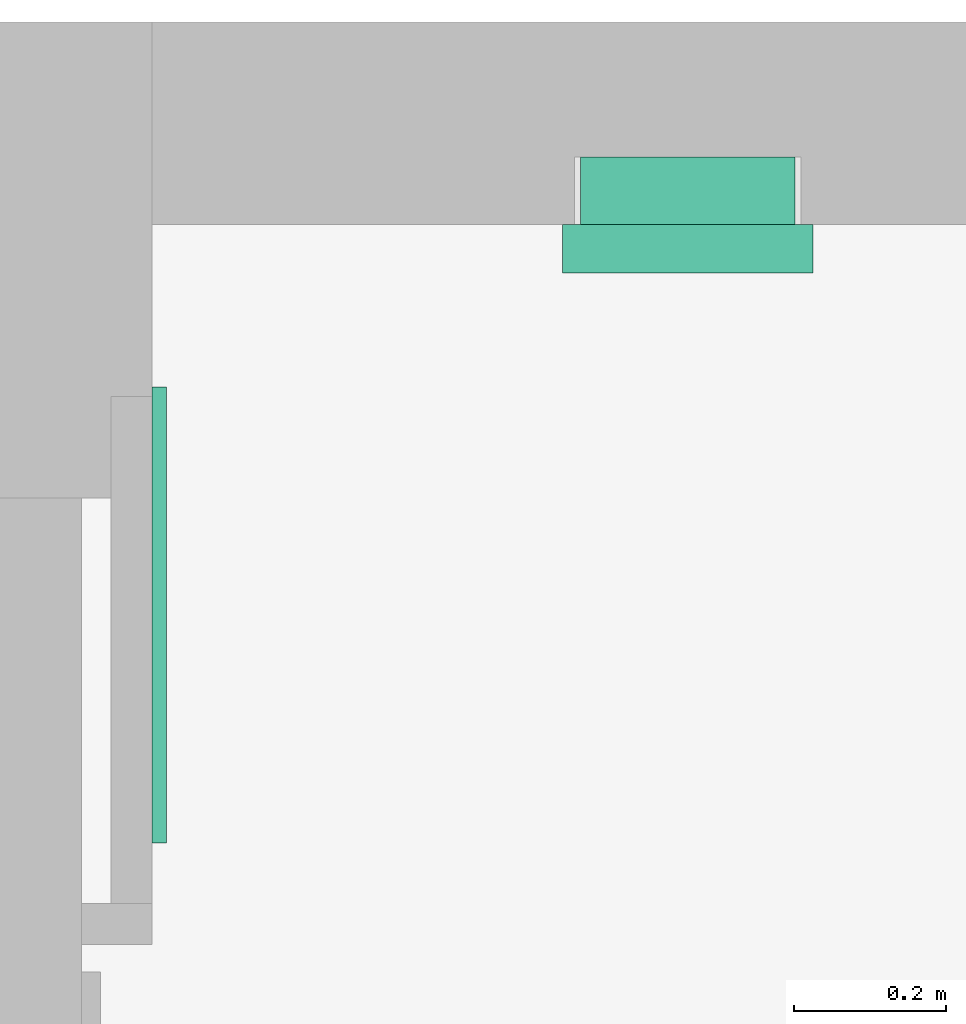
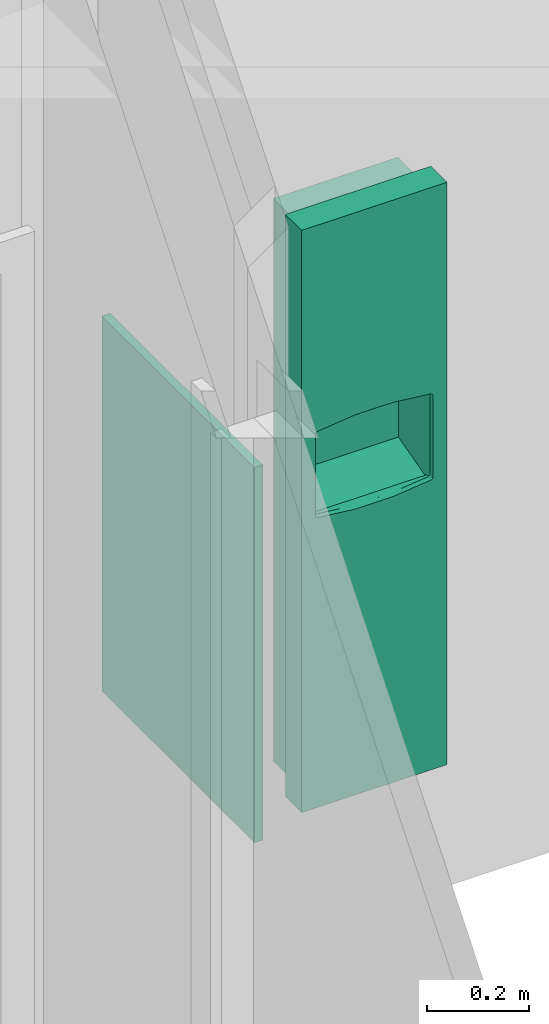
# One storey, part 64 of 82: 2 flow terminals.
"""IFC2X3 building model written with IfcOpenShell, lengths in metres."""

from ifc_helpers import new_model, entity, si_unit, converted_unit, frame, origin, origin_2d_with_axis, place, context, project, spatial, rectangle, extrude, face_set, surface_model, source, transform, mapped, type_object, type_shapes, element, save


model = new_model("IFC2X3")

# Units and contexts
model_context = context("Model", 3, precision=1e-09, world=origin())
plan_context = context("Plan", 3, precision=1e-09, world=origin())
ifc_project = project(units=[si_unit("LENGTHUNIT", "METRE"), si_unit("AREAUNIT", "SQUARE_METRE"), si_unit("VOLUMEUNIT", "CUBIC_METRE"), converted_unit("PLANEANGLEUNIT", "DEGREE", entity("IfcRatioMeasure", 0.01745329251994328), si_unit("PLANEANGLEUNIT", "RADIAN"), dimensions=[0, 0, 0, 0, 0, 0, 0]), si_unit("TIMEUNIT", "SECOND")], contexts=[model_context, plan_context])

# Site, building, storey, space
site_placement = place(None, origin())
site = spatial("IfcSite", under=ifc_project, at=site_placement, Name="Default", CompositionType="ELEMENT")
building_placement = place(site_placement, origin())
building = spatial("IfcBuilding", under=site, at=building_placement, CompositionType="ELEMENT")
storey_placement = place(building_placement, origin())
storey = spatial("IfcBuildingStorey", under=building, at=storey_placement, Name="First Floor", CompositionType="ELEMENT", Elevation=-3.531500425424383e-13)
space_placement = place(storey_placement, origin())
space = spatial("IfcSpace", under=storey, at=space_placement, Name="1A09", CompositionType="ELEMENT", InteriorOrExteriorSpace="INTERNAL")

# Flow terminals
sanitary_terminal_type_1 = type_object("IfcSanitaryTerminalType", Name="Semi-Recessed", PredefinedType="NOTDEFINED")
shared_shape_1 = source(origin(), model_context, "Body", "SurfaceModel", [
    surface_model("IfcFaceBasedSurfaceModel", [(0.3047999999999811, 1.371600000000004, 0.006350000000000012), (0.02539999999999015, 1.371600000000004, 0.006350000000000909), (0.02539999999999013, 0.02540000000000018, 0.006350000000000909), (0.3047999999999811, 0.02540000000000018, 0.006350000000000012), (0.3047999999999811, 1.371600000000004, 0.0), (0.02539999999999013, 1.371600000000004, 0.0), (0.02539999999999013, 0.02540000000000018, 0.0), (0.3047999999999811, 0.02540000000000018, 0.0), (0.3047999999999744, 0.8683625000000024, 0.0314087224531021), (0.304799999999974, 0.8683625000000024, 0.0), (0.304799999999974, 1.371600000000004, 0.0), (0.3047999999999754, 1.371600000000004, 0.1396999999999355), (0.3047999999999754, 0.9274310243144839, 0.139699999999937), (0.3047999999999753, 0.9028355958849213, 0.1191121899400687), (0.304799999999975, 0.8840898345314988, 0.09308548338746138), (0.3047999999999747, 0.8723562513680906, 0.06323391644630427), (0.02539999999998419, 0.8683625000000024, 0.03140872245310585), (0.02539999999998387, 0.8683625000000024, 0.0), (0.02539999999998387, 1.371600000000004, 0.0), (0.02539999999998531, 1.371600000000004, 0.1396999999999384), (0.02539999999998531, 0.9274310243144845, 0.1396999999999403), (0.02539999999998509, 0.9028355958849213, 0.1191121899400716), (0.02539999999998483, 0.8840898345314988, 0.09308548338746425), (0.02539999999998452, 0.8723562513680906, 0.06323391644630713), (0.1650999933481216, 0.8971245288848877, 0.1125374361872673), (0.244423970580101, 0.8850007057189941, 0.0947267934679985), (0.3048000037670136, 0.8934627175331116, 0.1060988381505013), (0.225727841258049, 0.8897196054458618, 0.1024402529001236), (0.1240624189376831, 0.8936511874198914, 0.1080563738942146), (0.1443802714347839, 0.89626145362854, 0.1114614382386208), (0.02539999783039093, 0.8934627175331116, 0.1060988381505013), (0.2975995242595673, 0.8728225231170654, 0.06500939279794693), (0.2961554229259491, 0.8724397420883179, 0.06352298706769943), (0.08576729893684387, 0.8849983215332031, 0.09472260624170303), (0.05923719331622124, 0.8781034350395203, 0.0805450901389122), (0.06810294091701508, 0.8800443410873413, 0.08500713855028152), (0.02539999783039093, 0.8811564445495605, 0.08562259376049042), (0.03954862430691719, 0.8766331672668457, 0.07681932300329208), (0.04958875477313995, 0.8769928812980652, 0.07776296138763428), (0.02539999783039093, 0.8782230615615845, 0.07815969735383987), (0.03264534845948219, 0.875198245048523, 0.07281118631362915), (0.02539999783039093, 0.8767563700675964, 0.0744282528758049), (0.02539999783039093, 0.87602299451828, 0.07256253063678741), (0.2946777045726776, 0.8762261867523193, 0.07572414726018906), (0.3048000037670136, 0.8767563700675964, 0.0744282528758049), (0.3048000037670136, 0.8774896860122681, 0.07629397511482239), (0.2906513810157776, 0.8717893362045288, 0.0609215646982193), (0.3048000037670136, 0.871357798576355, 0.05527761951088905), (0.3048000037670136, 0.8718570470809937, 0.05925576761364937), (0.02539999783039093, 0.874556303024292, 0.06883108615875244), (0.03170676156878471, 0.8735430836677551, 0.0675705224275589), (0.03171554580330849, 0.8739543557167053, 0.06892137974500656), (0.104461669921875, 0.889717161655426, 0.1024366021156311), (0.02539999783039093, 0.8752896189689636, 0.07069680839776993), (0.03172433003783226, 0.8743656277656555, 0.07027223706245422), (0.03218483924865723, 0.8747819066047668, 0.07154171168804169), (0.185808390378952, 0.8962624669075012, 0.1114626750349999), (0.3048000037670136, 0.8703593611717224, 0.04732131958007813), (0.2280749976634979, 0.8709259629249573, 0.05697767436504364), (0.2061262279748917, 0.8936530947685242, 0.1080589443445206), (0.3048000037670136, 0.8752896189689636, 0.07069680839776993), (0.297547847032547, 0.8752022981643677, 0.07282306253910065), (0.2980738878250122, 0.8745774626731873, 0.0708826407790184), (0.2985999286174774, 0.8739525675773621, 0.06894221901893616), (0.3048000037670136, 0.874556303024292, 0.06883108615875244), (0.2709419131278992, 0.8781068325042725, 0.08055329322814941), (0.3048000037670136, 0.8811564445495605, 0.08562259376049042), (0.2620970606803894, 0.8800443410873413, 0.08500713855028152), (0.2805894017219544, 0.8769944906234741, 0.07776710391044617), (0.3048000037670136, 0.8782230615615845, 0.07815969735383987), (0.03435983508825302, 0.8722586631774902, 0.06284872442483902), (0.02539999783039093, 0.872106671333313, 0.06124484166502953), (0.0367727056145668, 0.8719081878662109, 0.06142202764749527), (0.2906513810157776, 0.8766331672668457, 0.07681932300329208), (0.02539999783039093, 0.8718570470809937, 0.05925576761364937), (0.3048000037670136, 0.8738229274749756, 0.06696536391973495), (0.2980997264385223, 0.8733875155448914, 0.06697580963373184), (0.3048000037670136, 0.872106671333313, 0.06124484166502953), (0.2947112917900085, 0.8720570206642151, 0.06203658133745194), (0.02539999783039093, 0.8738229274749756, 0.06696536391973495), (0.3048000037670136, 0.873089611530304, 0.06509964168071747), (0.02539999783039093, 0.8774896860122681, 0.07629397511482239), (0.03438528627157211, 0.8759323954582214, 0.07491400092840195), (0.03677724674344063, 0.8764464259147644, 0.07632055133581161), (0.03261014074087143, 0.8728178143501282, 0.0649920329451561), (0.02539999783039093, 0.8703593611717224, 0.04732131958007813), (0.1650999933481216, 0.8683624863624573, 0.03140872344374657), (0.03954862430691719, 0.8717893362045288, 0.0609215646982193), (0.1021250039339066, 0.8709259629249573, 0.05697767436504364), (0.02539999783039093, 0.871357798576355, 0.05527761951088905), (0.02539999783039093, 0.873089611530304, 0.06509964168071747), (0.2961127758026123, 0.8757142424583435, 0.07427360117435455), (0.3048000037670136, 0.87602299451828, 0.07256253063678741), (0.1650999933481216, 0.8701865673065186, 0.05300865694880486), (0.03954862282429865, 0.9617593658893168, 0.06092156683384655), (0.1650999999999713, 0.9617593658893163, 0.05300865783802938), (0.2906513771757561, 0.9617593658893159, 0.06092156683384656), (0.2927086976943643, 0.9617593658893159, 0.06119241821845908), (0.2946258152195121, 0.9617593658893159, 0.06198651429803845), (0.2962720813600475, 0.9617593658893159, 0.06324973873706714), (0.2975353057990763, 0.9617593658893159, 0.06489600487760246), (0.2983294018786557, 0.9617593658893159, 0.06681312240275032), (0.2986002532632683, 0.9617593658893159, 0.06887044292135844), (0.2983294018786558, 0.9617593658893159, 0.07092776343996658), (0.2975353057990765, 0.9617593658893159, 0.0728448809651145), (0.2962720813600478, 0.9617593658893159, 0.07449114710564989), (0.2946258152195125, 0.9617593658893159, 0.07575437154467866), (0.2927086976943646, 0.9617593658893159, 0.07654846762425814), (0.2906513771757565, 0.9617593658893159, 0.07681931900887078), (0.2806776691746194, 0.9617593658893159, 0.07775040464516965), (0.2710486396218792, 0.9617593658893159, 0.0805114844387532), (0.2620970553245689, 0.9617593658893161, 0.0850071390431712), (0.2316919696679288, 0.9617593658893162, 0.1002429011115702), (0.1989754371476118, 0.9617593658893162, 0.1095287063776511), (0.1651000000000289, 0.9617593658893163, 0.1125374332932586), (0.1312245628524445, 0.9617593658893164, 0.109528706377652), (0.09850803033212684, 0.9617593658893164, 0.1002429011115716), (0.06810294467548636, 0.9617593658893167, 0.08500713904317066), (0.05915136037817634, 0.9617593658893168, 0.08051148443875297), (0.04952233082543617, 0.9617593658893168, 0.07775040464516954), (0.03954862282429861, 0.9617593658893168, 0.07681931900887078), (0.03749130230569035, 0.9617593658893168, 0.0765484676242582), (0.03557418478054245, 0.9617593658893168, 0.07575437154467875), (0.03392791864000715, 0.9617593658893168, 0.07449114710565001), (0.03266469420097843, 0.9617593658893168, 0.07284488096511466), (0.03187059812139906, 0.9617593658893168, 0.07092776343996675), (0.03159974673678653, 0.9617593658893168, 0.06887044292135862), (0.03187059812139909, 0.9617593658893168, 0.06681312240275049), (0.03266469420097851, 0.9617593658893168, 0.0648960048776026), (0.03392791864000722, 0.9617593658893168, 0.06324973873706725), (0.03557418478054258, 0.9617593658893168, 0.06198651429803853), (0.03749130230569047, 0.9617593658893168, 0.06119241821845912), (0.3302000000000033, 1.397000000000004, 0.1523999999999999), (0.0, 1.397000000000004, 0.152400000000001), (0.0, 0.0, 0.152400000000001), (0.3302000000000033, 0.0, 0.1523999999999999), (0.03175000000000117, 0.7016793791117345, 0.1524000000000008), (0.03175000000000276, 0.8960819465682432, 0.1524000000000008), (0.03192255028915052, 0.8975521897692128, 0.1524000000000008), (0.03243082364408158, 0.8989425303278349, 0.1524000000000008), (0.03324719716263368, 0.9001774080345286, 0.1524000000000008), (0.03432730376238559, 0.9011897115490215, 0.1524000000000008), (0.03561244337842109, 0.9019244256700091, 0.1524000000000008), (0.03703277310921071, 0.9023416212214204, 0.1524000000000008), (0.1222300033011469, 0.9119737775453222, 0.1524000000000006), (0.2079699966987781, 0.911973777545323, 0.1524000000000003), (0.2931672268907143, 0.902341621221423, 0.1524), (0.2945875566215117, 0.9019244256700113, 0.1524), (0.2958726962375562, 0.9011897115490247, 0.1524), (0.2969528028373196, 0.9001774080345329, 0.1524), (0.297769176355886, 0.8989425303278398, 0.1524), (0.2982774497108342, 0.8975521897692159, 0.1524), (0.2984500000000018, 0.8960819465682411, 0.1524), (0.2984500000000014, 0.7016793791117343, 0.1524), (0.2982774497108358, 0.7002091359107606, 0.1524), (0.2977691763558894, 0.6988187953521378, 0.1524), (0.2969528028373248, 0.697583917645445, 0.1524), (0.2958726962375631, 0.6965716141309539, 0.1524), (0.29458755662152, 0.6958369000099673, 0.1524), (0.2931672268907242, 0.6954197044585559, 0.1524), (0.2079699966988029, 0.6857875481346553, 0.1524000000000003), (0.1222300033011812, 0.6857875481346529, 0.1524000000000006), (0.03703277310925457, 0.6954197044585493, 0.1524000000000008), (0.03561244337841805, 0.6958369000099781, 0.1524000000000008), (0.0343273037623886, 0.6965716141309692, 0.1524000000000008), (0.03324719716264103, 0.6975839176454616, 0.1524000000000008), (0.03243082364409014, 0.698818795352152, 0.1524000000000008), (0.03192255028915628, 0.7002091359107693, 0.1524000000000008), (0.3063874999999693, 1.373187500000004, 0.0), (0.02381249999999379, 1.373187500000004, 0.0), (0.02381249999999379, 0.02381250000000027, 0.0), (0.3063874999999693, 0.02381250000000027, 0.0), (0.3047999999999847, 1.371600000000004, 0.0), (0.3047999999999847, 0.02540000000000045, 0.0), (0.02539999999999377, 0.02540000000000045, 0.0), (0.02539999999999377, 1.371600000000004, 0.0), (0.304799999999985, 1.371600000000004, 0.08889999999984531), (0.3047999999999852, 1.371600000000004, 0.1396999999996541), (0.3047999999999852, 0.02540000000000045, 0.1396999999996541), (0.304799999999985, 0.02540000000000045, 0.08889999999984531), (0.02539999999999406, 0.02540000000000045, 0.08889999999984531), (0.02539999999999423, 0.02540000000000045, 0.139699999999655), (0.02539999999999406, 1.371600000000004, 0.08889999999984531), (0.02539999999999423, 1.371600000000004, 0.139699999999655), (0.02381249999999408, 1.373187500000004, 0.08889999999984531), (0.3063874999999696, 1.373187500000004, 0.08889999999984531), (0.02381249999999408, 0.02381250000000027, 0.08889999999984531), (0.3063874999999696, 0.02381250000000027, 0.08889999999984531), (0.3302000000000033, 1.397000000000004, 0.08889999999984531), (0.0, 1.397000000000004, 0.08889999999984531), (0.0, 0.0, 0.08889999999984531), (0.3302000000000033, 0.0, 0.08889999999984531), (0.3302000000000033, 1.397000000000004, 0.1396999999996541), (0.0, 1.397000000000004, 0.1396999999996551), (0.0, 0.0, 0.1396999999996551), (0.3302000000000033, 0.0, 0.1396999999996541), (0.0317500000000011, 0.7016793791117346, 0.139699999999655), (0.03175000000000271, 0.8960819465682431, 0.139699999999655), (0.03192255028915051, 0.8975521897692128, 0.139699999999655), (0.03243082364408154, 0.8989425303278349, 0.139699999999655), (0.03324719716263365, 0.9001774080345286, 0.139699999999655), (0.03432730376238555, 0.9011897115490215, 0.139699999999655), (0.03561244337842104, 0.9019244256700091, 0.139699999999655), (0.03703277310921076, 0.9023416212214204, 0.139699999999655), (0.1222300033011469, 0.9119737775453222, 0.1396999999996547), (0.207969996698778, 0.911973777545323, 0.1396999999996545), (0.2931672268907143, 0.902341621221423, 0.1396999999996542), (0.2945875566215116, 0.9019244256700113, 0.1396999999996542), (0.2958726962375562, 0.9011897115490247, 0.1396999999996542), (0.2969528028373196, 0.9001774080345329, 0.1396999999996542), (0.2977691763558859, 0.8989425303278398, 0.1396999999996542), (0.2982774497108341, 0.8975521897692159, 0.1396999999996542), (0.2984500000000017, 0.8960819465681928, 0.1396999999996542), (0.2984500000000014, 0.7016793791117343, 0.1396999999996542), (0.2982774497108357, 0.7002091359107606, 0.1396999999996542), (0.2977691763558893, 0.6988187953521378, 0.1396999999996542), (0.2969528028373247, 0.697583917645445, 0.1396999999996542), (0.295872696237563, 0.6965716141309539, 0.1396999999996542), (0.29458755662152, 0.6958369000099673, 0.1396999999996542), (0.2931672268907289, 0.6954197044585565, 0.1396999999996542), (0.2079699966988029, 0.6857875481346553, 0.1396999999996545), (0.1222300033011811, 0.6857875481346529, 0.1396999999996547), (0.0370327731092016, 0.6954197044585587, 0.139699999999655), (0.03561244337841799, 0.6958369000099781, 0.139699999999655), (0.03432730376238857, 0.6965716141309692, 0.139699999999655), (0.03324719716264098, 0.6975839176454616, 0.139699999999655), (0.03243082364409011, 0.698818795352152, 0.139699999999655), (0.03192255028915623, 0.7002091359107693, 0.139699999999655), (0.02698749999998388, 0.6774923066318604, 0.1206361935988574), (0.02698749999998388, 0.6858000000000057, 0.1206361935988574), (0.02698749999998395, 0.6858000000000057, 0.1397000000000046), (0.02698749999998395, 0.0253999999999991, 0.1397000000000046), (0.02698749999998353, 0.0253999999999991, 0.007937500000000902), (0.02698749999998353, 0.7076898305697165, 0.007937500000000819), (0.3032124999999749, 0.6774923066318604, 0.1206361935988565), (0.3032124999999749, 0.6858000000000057, 0.1206361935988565), (0.3032124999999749, 0.6858000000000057, 0.1397000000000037), (0.3032124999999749, 0.0253999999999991, 0.1397000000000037), (0.3032124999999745, 0.0253999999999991, 0.007937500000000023), (0.3032124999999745, 0.7076898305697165, 0.007937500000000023)], [face_set([[[0, 1, 2, 3]], [[4, 5, 6, 7]], [[1, 0, 4, 5]], [[2, 6, 5, 1]], [[3, 7, 6, 2]], [[0, 3, 7, 4]]]), face_set([[[8, 9, 10, 11, 12, 13, 14, 15]], [[16, 17, 18, 19, 20, 21, 22, 23]], [[9, 8, 16, 17]], [[10, 18, 17, 9]], [[11, 19, 18, 10]], [[12, 11, 19, 20]], [[24, 20, 21]], [[25, 26, 27]], [[28, 29, 21]], [[28, 21, 30]], [[15, 31, 32]], [[22, 33, 30]], [[24, 21, 29]], [[34, 35, 36]], [[37, 38, 39]], [[40, 41, 42]], [[39, 38, 34]], [[22, 35, 33]], [[39, 34, 36]], [[43, 44, 45]], [[46, 47, 48]], [[49, 50, 51]], [[33, 52, 30]], [[53, 54, 55]], [[24, 56, 13]], [[57, 47, 58]], [[24, 13, 12]], [[13, 56, 59]], [[59, 27, 26]], [[60, 61, 62]], [[62, 63, 64]], [[24, 12, 20]], [[55, 42, 53]], [[65, 66, 67]], [[25, 67, 14]], [[25, 14, 26]], [[65, 68, 69]], [[66, 65, 69]], [[70, 71, 72]], [[69, 68, 73]], [[72, 71, 74]], [[26, 13, 59]], [[54, 53, 49]], [[64, 60, 62]], [[75, 63, 76]], [[46, 77, 78]], [[79, 50, 49]], [[80, 76, 31]], [[39, 81, 37]], [[41, 82, 81]], [[49, 51, 54]], [[81, 82, 83]], [[40, 82, 41]], [[70, 84, 23]], [[84, 50, 79]], [[85, 16, 86]], [[28, 30, 52]], [[70, 23, 71]], [[87, 72, 74]], [[85, 88, 89]], [[87, 89, 88]], [[74, 89, 87]], [[84, 90, 23]], [[58, 47, 46]], [[35, 22, 36]], [[63, 75, 64]], [[91, 61, 92]], [[45, 73, 43]], [[80, 75, 76]], [[61, 60, 92]], [[15, 32, 78]], [[45, 69, 73]], [[92, 44, 91]], [[66, 14, 67]], [[84, 79, 90]], [[85, 93, 88]], [[86, 57, 93]], [[31, 15, 80]], [[77, 15, 78]], [[42, 55, 40]], [[58, 93, 57]], [[77, 46, 48]], [[8, 57, 86]], [[37, 81, 83]], [[44, 43, 91]], [[85, 86, 93]], [[94, 95, 96, 97, 98, 99, 100, 101, 102, 103, 104, 105, 106, 107, 108, 109, 110, 111, 112, 113, 114, 115, 116, 117, 118, 119, 120, 121, 122, 123, 124, 125, 126, 127, 128, 129, 130, 131]], [[95, 94, 87, 88, 93]], [[96, 95, 93, 58, 46]], [[46, 96, 97]], [[78, 98, 99]], [[97, 98, 78]], [[99, 100, 31]], [[46, 97, 78]], [[63, 31, 101]], [[31, 78, 99]], [[63, 101, 102]], [[101, 31, 100]], [[61, 104, 105]], [[43, 106, 107]], [[105, 106, 43]], [[73, 107, 108]], [[63, 103, 61]], [[103, 63, 102]], [[61, 103, 104]], [[61, 105, 43]], [[107, 73, 43]], [[108, 68, 73]], [[68, 108, 109]], [[109, 65, 68]], [[110, 67, 65]], [[67, 110, 111]], [[109, 110, 65]], [[111, 112, 25]], [[25, 67, 111]], [[27, 25, 112]], [[112, 59, 27]], [[113, 114, 56]], [[56, 59, 113]], [[24, 56, 114]], [[113, 59, 112]], [[114, 115, 29]], [[29, 24, 114]], [[28, 29, 115]], [[115, 116, 28]], [[116, 117, 33]], [[33, 52, 116]], [[35, 33, 117]], [[116, 52, 28]], [[118, 34, 35]], [[35, 117, 118]], [[118, 119, 34]], [[120, 37, 38]], [[38, 119, 120]], [[34, 119, 38]], [[37, 120, 121]], [[82, 122, 123]], [[121, 122, 83]], [[123, 124, 40]], [[37, 121, 83]], [[83, 122, 82]], [[40, 125, 54]], [[40, 82, 123]], [[54, 125, 126]], [[40, 124, 125]], [[84, 127, 128]], [[129, 84, 128]], [[72, 130, 131]], [[129, 130, 70]], [[87, 131, 94]], [[127, 50, 126]], [[127, 84, 50]], [[126, 50, 54]], [[70, 84, 129]], [[130, 72, 70]], [[131, 87, 72]]]), face_set([[[132, 133, 134, 135], [136, 137, 138, 139, 140, 141, 142, 143, 144, 145, 146, 147, 148, 149, 150, 151, 152, 153, 154, 155, 156, 157, 158, 159, 160, 161, 162, 163, 164, 165, 166, 167]], [[168, 169, 170, 171], [172, 173, 174, 175]], [[172, 176, 177, 178, 179, 173]], [[173, 174, 180, 181, 178, 179]], [[174, 175, 182, 183, 181, 180]], [[175, 182, 183, 177, 176, 172]], [[168, 169, 184, 185]], [[169, 184, 186, 170]], [[170, 186, 187, 171]], [[171, 168, 185, 187]], [[188, 189, 190, 191], [185, 187, 186, 184]], [[133, 132, 192, 188, 189, 193]], [[134, 133, 193, 189, 190, 194]], [[135, 134, 194, 190, 191, 195]], [[132, 135, 195, 191, 188, 192]], [[177, 183, 181, 178], [196, 197, 198, 199, 200, 201, 202, 203, 204, 205, 206, 207, 208, 209, 210, 211, 212, 213, 214, 215, 216, 217, 218, 219, 220, 221, 222, 223, 224, 225, 226, 227]], [[137, 136, 196, 197]], [[198, 197, 137, 138]], [[199, 198, 138, 139]], [[139, 140, 200, 199]], [[202, 201, 141, 142]], [[203, 202, 142, 143]], [[140, 141, 201, 200]], [[203, 143, 144, 204]], [[145, 205, 204, 144]], [[205, 145, 146, 206]], [[207, 206, 146, 147]], [[208, 207, 147, 148]], [[148, 149, 209, 208]], [[212, 211, 151, 152]], [[211, 210, 150, 151]], [[149, 150, 210, 209]], [[153, 213, 212, 152]], [[214, 213, 153, 154]], [[215, 214, 154, 155]], [[155, 156, 216, 215]], [[218, 217, 157, 158]], [[219, 218, 158, 159]], [[156, 157, 217, 216]], [[219, 159, 160, 220]], [[161, 221, 220, 160]], [[221, 161, 162, 222]], [[223, 222, 162, 163]], [[224, 223, 163, 164]], [[164, 165, 225, 224]], [[227, 226, 166, 167]], [[196, 227, 167, 136]], [[165, 166, 226, 225]]]), face_set([[[228, 229, 230, 231, 232, 233]], [[234, 235, 236, 237, 238, 239]], [[233, 228, 234, 239]], [[232, 238, 239, 233]], [[231, 237, 238, 232]], [[230, 231, 237, 236]], [[229, 230, 236, 235]], [[228, 234, 235, 229]]])]),
])
type_shapes(sanitary_terminal_type_1, [shared_shape_1])
flow_terminal_1_placement = place(space_placement, frame((-17.36300000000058, 50.2918999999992, 0.3428999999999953), z_axis=(0.0, -1.0, 0.0), x_axis=(1.0, 0.0, 0.0)))
element("IfcFlowTerminal", 1, at=flow_terminal_1_placement, inside=space, type_object=sanitary_terminal_type_1, Name="M_Towel Dispensers - receptical:Semi-Recessed:Semi-Recessed", ObjectType="Semi-Recessed", context=model_context, shape_type="MappedRepresentation", body=[
    mapped(shared_shape_1, transform((0.0, 0.0, 0.0), scale=1.0)),
])
sanitary_terminal_type_2 = type_object("IfcSanitaryTerminalType", Name="Mirror 600mm x 900mm", PredefinedType="NOTDEFINED")
shared_shape_2 = source(origin(), model_context, "Body", "SweptSolid", [
    extrude(rectangle(XDim=0.01904999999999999, YDim=0.5999999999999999, at=origin_2d_with_axis()), frame((0.02447030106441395, 0.036525, 1.0), z_axis=(0.0, 0.0, 1.0), x_axis=(0.0, -1.0, 0.0)), (0.0, 0.0, 1.0), 0.8999999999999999),
])
type_shapes(sanitary_terminal_type_2, [shared_shape_2])
flow_terminal_2_placement = place(space_placement, frame((-17.93000000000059, 49.71347030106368, -0.08500000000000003), z_axis=(0.0, 0.0, 1.0), x_axis=(0.0, -1.0, 0.0)))
element("IfcFlowTerminal", 2, at=flow_terminal_2_placement, inside=space, type_object=sanitary_terminal_type_2, Name="M_Mirror:Mirror 600mm x 900mm:Mirror 600mm x 900mm", ObjectType="Mirror 600mm x 900mm", context=model_context, shape_type="MappedRepresentation", body=[
    mapped(shared_shape_2, transform((0.0, 0.0, 0.0), scale=1.0)),
])

save(model, "model.ifc")
